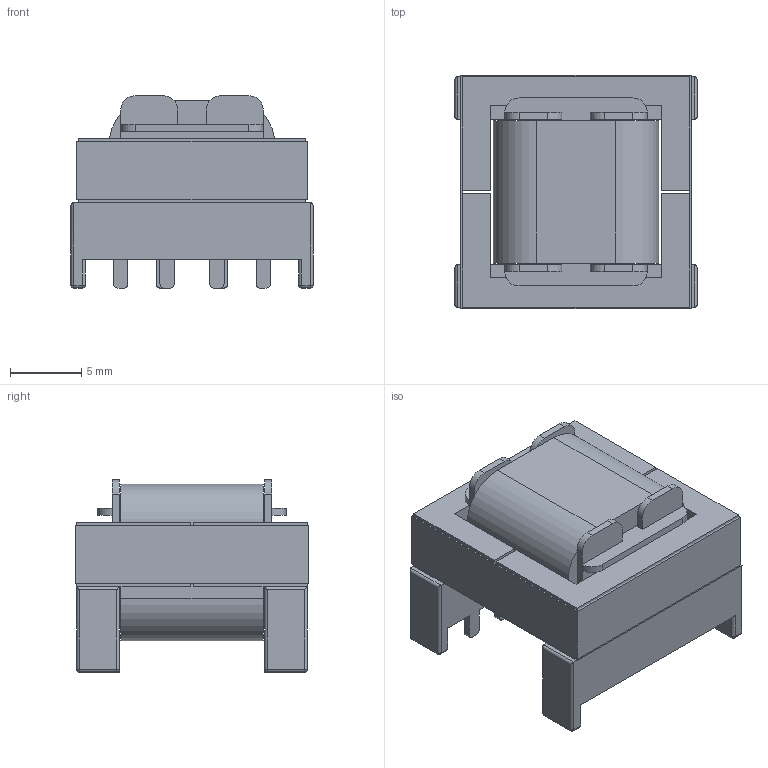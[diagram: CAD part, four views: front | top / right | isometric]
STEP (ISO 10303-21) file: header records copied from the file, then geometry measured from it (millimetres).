
FILE_DESCRIPTION(('FreeCAD Model'),'2;1');
FILE_NAME('Open CASCADE Shape Model','2023-11-25T17:28:01',('Author'),( ''),'Open CASCADE STEP processor 7.6','FreeCAD','Unknown');
FILE_SCHEMA(('AUTOMOTIVE_DESIGN { 1 0 10303 214 1 1 1 1 }'));
Length unit declared in the file: millimetre
Products named in the file (10): EE_16_Transformer; Body; Body001; Body002; Body003; Body004; Body005; Body006; Body007; Body008
Assembly tree (9 placements, depth 2):
  EE_16_Transformer
    Body
    Body001
    Body002
    Body003
    Body004
    Body005
    Body006
    Body007
    Body008
Bounding box: 17 x 16.4 x 13.5 mm (x, y, z)
Volume: 2300.3 mm3; surface area: 3838.9 mm2
Topology: 9 solids, 9 shells, 230 faces, 596 edges, 368 vertices
Faces by surface type: plane 146, cylinder 68, sphere 16
Entity records: 7067 total; most frequent: CARTESIAN_POINT 1188, DIRECTION 1188, ORIENTED_EDGE 1160, EDGE_CURVE 580, LINE 452, VECTOR 452, AXIS2_PLACEMENT_3D 368, VERTEX_POINT 368
